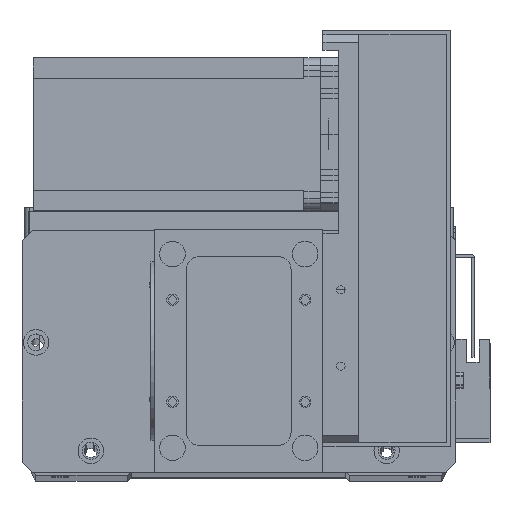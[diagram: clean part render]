
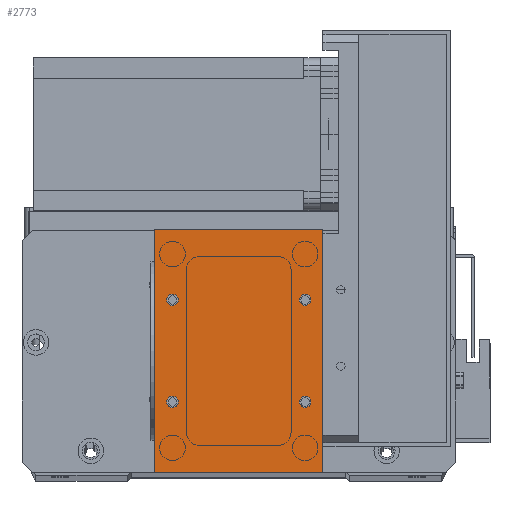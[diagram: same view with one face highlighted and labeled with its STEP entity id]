
A CAD part, top view. The second image highlights one B-rep face of the part: STEP entity #2773.
In plain terms, the highlighted planar face has unit normal (0, 0, 1).
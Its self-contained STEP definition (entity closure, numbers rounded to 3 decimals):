
#82 = LINE ( 'NONE', #9437, #6729 ) ;
#756 = VERTEX_POINT ( 'NONE', #12595 ) ;
#1461 = ORIENTED_EDGE ( 'NONE', *, *, #1820, .F. ) ;
#1469 = CARTESIAN_POINT ( 'NONE',  ( 0., 95., 2. ) ) ;
#1820 = EDGE_CURVE ( 'NONE', #27998, #31352, #22133, .T. ) ;
#1868 = AXIS2_PLACEMENT_3D ( 'NONE', #13177, #30394, #15663 ) ;
#2296 = EDGE_LOOP ( 'NONE', ( #5750, #5989, #28155, #31721 ) ) ;
#2653 = AXIS2_PLACEMENT_3D ( 'NONE', #13140, #30356, #15623 ) ;
#2773 = ADVANCED_FACE ( 'NONE', ( #10464, #17059, #3850, #24385, #29408 ), #21104, .F. ) ;
#3260 = ORIENTED_EDGE ( 'NONE', *, *, #25162, .F. ) ;
#3850 = FACE_BOUND ( 'NONE', #6091, .T. ) ;
#4015 = VERTEX_POINT ( 'NONE', #16788 ) ;
#4426 = CIRCLE ( 'NONE', #22400, 2.25 ) ;
#4609 = AXIS2_PLACEMENT_3D ( 'NONE', #11582, #28838, #14087 ) ;
#4692 = DIRECTION ( 'NONE',  ( 1., 0., 0. ) ) ;
#5197 = CARTESIAN_POINT ( 'NONE',  ( 56.75, 27.5, 2. ) ) ;
#5271 = CIRCLE ( 'NONE', #19132, 2.25 ) ;
#5750 = ORIENTED_EDGE ( 'NONE', *, *, #21645, .T. ) ;
#5989 = ORIENTED_EDGE ( 'NONE', *, *, #28075, .T. ) ;
#5999 = CARTESIAN_POINT ( 'NONE',  ( 7., 67.5, 2. ) ) ;
#6091 = EDGE_LOOP ( 'NONE', ( #19107, #24102 ) ) ;
#6612 = CIRCLE ( 'NONE', #4609, 2.25 ) ;
#6729 = VECTOR ( 'NONE', #16812, 1000. ) ;
#6983 = EDGE_LOOP ( 'NONE', ( #28993, #1461 ) ) ;
#7269 = EDGE_CURVE ( 'NONE', #13736, #14893, #4426, .T. ) ;
#7524 = DIRECTION ( 'NONE',  ( 0., 0., 1. ) ) ;
#7587 = CARTESIAN_POINT ( 'NONE',  ( 59., 67.5, 2. ) ) ;
#7612 = CARTESIAN_POINT ( 'NONE',  ( 59., 67.5, 2. ) ) ;
#8473 = CARTESIAN_POINT ( 'NONE',  ( 66., 0., 2. ) ) ;
#8491 = DIRECTION ( 'NONE',  ( 1., 0., 0. ) ) ;
#8858 = CARTESIAN_POINT ( 'NONE',  ( 56.75, 67.5, 2. ) ) ;
#9181 = CARTESIAN_POINT ( 'NONE',  ( 0., 0., 2. ) ) ;
#9416 = AXIS2_PLACEMENT_3D ( 'NONE', #7612, #7524, #4692 ) ;
#9437 = CARTESIAN_POINT ( 'NONE',  ( 0., 0., 2. ) ) ;
#9502 = DIRECTION ( 'NONE',  ( 0., 0., 1. ) ) ;
#9686 = EDGE_CURVE ( 'NONE', #14893, #13736, #22147, .T. ) ;
#9710 = VECTOR ( 'NONE', #21843, 1000. ) ;
#9773 = EDGE_CURVE ( 'NONE', #24069, #17890, #19052, .T. ) ;
#10000 = ORIENTED_EDGE ( 'NONE', *, *, #18148, .F. ) ;
#10081 = DIRECTION ( 'NONE',  ( 1., 0., 0. ) ) ;
#10464 = FACE_BOUND ( 'NONE', #23114, .T. ) ;
#10523 = VERTEX_POINT ( 'NONE', #1469 ) ;
#10645 = EDGE_CURVE ( 'NONE', #17890, #10523, #16307, .T. ) ;
#11129 = CARTESIAN_POINT ( 'NONE',  ( 61.25, 27.5, 2. ) ) ;
#11582 = CARTESIAN_POINT ( 'NONE',  ( 7., 27.5, 2. ) ) ;
#12523 = VECTOR ( 'NONE', #30715, 1000. ) ;
#12595 = CARTESIAN_POINT ( 'NONE',  ( 9.25, 27.5, 2. ) ) ;
#13140 = CARTESIAN_POINT ( 'NONE',  ( 7., 27.5, 2. ) ) ;
#13177 = CARTESIAN_POINT ( 'NONE',  ( 59., 27.5, 2. ) ) ;
#13736 = VERTEX_POINT ( 'NONE', #11129 ) ;
#14087 = DIRECTION ( 'NONE',  ( 1., 0., 0. ) ) ;
#14436 = VERTEX_POINT ( 'NONE', #23082 ) ;
#14893 = VERTEX_POINT ( 'NONE', #5197 ) ;
#15076 = CARTESIAN_POINT ( 'NONE',  ( 4.75, 67.5, 2. ) ) ;
#15087 = ORIENTED_EDGE ( 'NONE', *, *, #27226, .F. ) ;
#15623 = DIRECTION ( 'NONE',  ( 1., 0., 0. ) ) ;
#15663 = DIRECTION ( 'NONE',  ( 1., 0., 0. ) ) ;
#15863 = EDGE_LOOP ( 'NONE', ( #24408, #10000 ) ) ;
#16307 = LINE ( 'NONE', #24315, #9710 ) ;
#16326 = CIRCLE ( 'NONE', #2653, 2.25 ) ;
#16788 = CARTESIAN_POINT ( 'NONE',  ( 0., 0., 2. ) ) ;
#16812 = DIRECTION ( 'NONE',  ( 0., -1., 0. ) ) ;
#17059 = FACE_BOUND ( 'NONE', #6983, .T. ) ;
#17890 = VERTEX_POINT ( 'NONE', #22929 ) ;
#18148 = EDGE_CURVE ( 'NONE', #14436, #756, #6612, .T. ) ;
#19052 = LINE ( 'NONE', #8473, #12523 ) ;
#19107 = ORIENTED_EDGE ( 'NONE', *, *, #7269, .F. ) ;
#19132 = AXIS2_PLACEMENT_3D ( 'NONE', #7587, #24877, #10081 ) ;
#19152 = CARTESIAN_POINT ( 'NONE',  ( 61.25, 67.5, 2. ) ) ;
#19186 = AXIS2_PLACEMENT_3D ( 'NONE', #21143, #20655, #20356 ) ;
#19408 = DIRECTION ( 'NONE',  ( 1., 0., 0. ) ) ;
#19447 = DIRECTION ( 'NONE',  ( 0., 0., 1. ) ) ;
#19449 = CARTESIAN_POINT ( 'NONE',  ( 59., 27.5, 2. ) ) ;
#20118 = CARTESIAN_POINT ( 'NONE',  ( 9.25, 67.5, 2. ) ) ;
#20356 = DIRECTION ( 'NONE',  ( -1., 0., 0. ) ) ;
#20655 = DIRECTION ( 'NONE',  ( 0., 0., -1. ) ) ;
#21104 = PLANE ( 'NONE',  #19186 ) ;
#21143 = CARTESIAN_POINT ( 'NONE',  ( 0., 0., 2. ) ) ;
#21645 = EDGE_CURVE ( 'NONE', #10523, #4015, #82, .T. ) ;
#21843 = DIRECTION ( 'NONE',  ( -1., 0., 0. ) ) ;
#22133 = CIRCLE ( 'NONE', #9416, 2.25 ) ;
#22147 = CIRCLE ( 'NONE', #1868, 2.25 ) ;
#22400 = AXIS2_PLACEMENT_3D ( 'NONE', #19449, #19447, #19408 ) ;
#22929 = CARTESIAN_POINT ( 'NONE',  ( 66., 95., 2. ) ) ;
#23082 = CARTESIAN_POINT ( 'NONE',  ( 4.75, 27.5, 2. ) ) ;
#23114 = EDGE_LOOP ( 'NONE', ( #3260, #15087 ) ) ;
#23315 = DIRECTION ( 'NONE',  ( 0., 0., 1. ) ) ;
#23448 = EDGE_CURVE ( 'NONE', #756, #14436, #16326, .T. ) ;
#23754 = VECTOR ( 'NONE', #26467, 1000. ) ;
#24069 = VERTEX_POINT ( 'NONE', #30427 ) ;
#24102 = ORIENTED_EDGE ( 'NONE', *, *, #9686, .F. ) ;
#24308 = CARTESIAN_POINT ( 'NONE',  ( 7., 67.5, 2. ) ) ;
#24315 = CARTESIAN_POINT ( 'NONE',  ( 0., 95., 2. ) ) ;
#24385 = FACE_BOUND ( 'NONE', #15863, .T. ) ;
#24408 = ORIENTED_EDGE ( 'NONE', *, *, #23448, .F. ) ;
#24877 = DIRECTION ( 'NONE',  ( 0., 0., 1. ) ) ;
#25162 = EDGE_CURVE ( 'NONE', #28367, #26430, #27045, .T. ) ;
#26413 = EDGE_CURVE ( 'NONE', #31352, #27998, #5271, .T. ) ;
#26430 = VERTEX_POINT ( 'NONE', #15076 ) ;
#26467 = DIRECTION ( 'NONE',  ( 1., 0., 0. ) ) ;
#26785 = DIRECTION ( 'NONE',  ( 1., 0., 0. ) ) ;
#27045 = CIRCLE ( 'NONE', #30438, 2.25 ) ;
#27226 = EDGE_CURVE ( 'NONE', #26430, #28367, #28054, .T. ) ;
#27998 = VERTEX_POINT ( 'NONE', #8858 ) ;
#28054 = CIRCLE ( 'NONE', #28849, 2.25 ) ;
#28075 = EDGE_CURVE ( 'NONE', #4015, #24069, #30299, .T. ) ;
#28155 = ORIENTED_EDGE ( 'NONE', *, *, #9773, .T. ) ;
#28367 = VERTEX_POINT ( 'NONE', #20118 ) ;
#28838 = DIRECTION ( 'NONE',  ( 0., 0., 1. ) ) ;
#28849 = AXIS2_PLACEMENT_3D ( 'NONE', #5999, #23315, #8491 ) ;
#28993 = ORIENTED_EDGE ( 'NONE', *, *, #26413, .F. ) ;
#29408 = FACE_OUTER_BOUND ( 'NONE', #2296, .T. ) ;
#30299 = LINE ( 'NONE', #9181, #23754 ) ;
#30356 = DIRECTION ( 'NONE',  ( 0., 0., 1. ) ) ;
#30394 = DIRECTION ( 'NONE',  ( 0., 0., 1. ) ) ;
#30427 = CARTESIAN_POINT ( 'NONE',  ( 66., 0., 2. ) ) ;
#30438 = AXIS2_PLACEMENT_3D ( 'NONE', #24308, #9502, #26785 ) ;
#30715 = DIRECTION ( 'NONE',  ( 0., 1., 0. ) ) ;
#31352 = VERTEX_POINT ( 'NONE', #19152 ) ;
#31721 = ORIENTED_EDGE ( 'NONE', *, *, #10645, .T. ) ;
